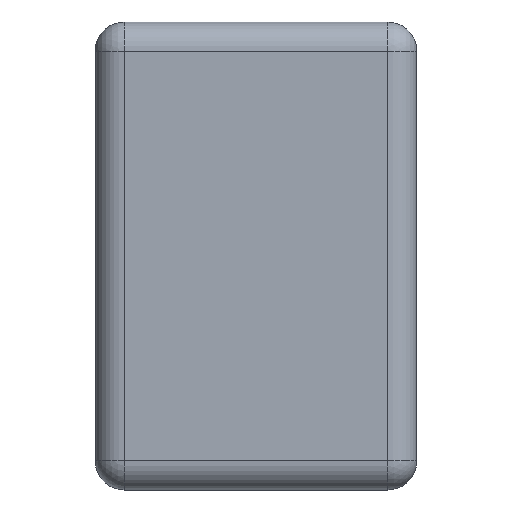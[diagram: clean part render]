
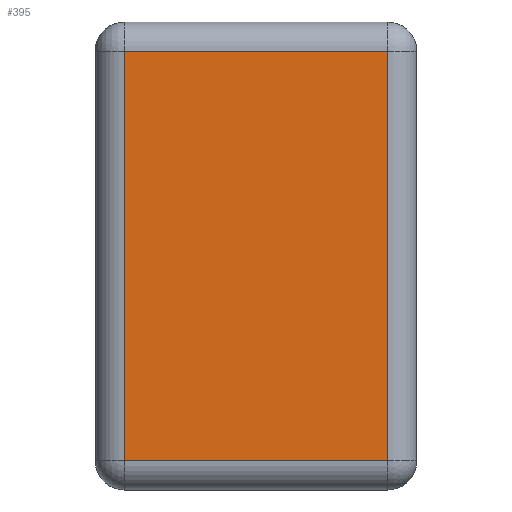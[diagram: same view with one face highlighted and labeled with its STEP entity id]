
A CAD part, left-side view. The second image highlights one B-rep face of the part: STEP entity #395.
In plain terms, the highlighted planar face has unit normal (-1, 0, 0).
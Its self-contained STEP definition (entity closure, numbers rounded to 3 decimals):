
#26 = CARTESIAN_POINT ( 'NONE',  ( -1.6, 0.1, -0.7 ) ) ;
#27 = VERTEX_POINT ( 'NONE', #26 ) ;
#242 = CARTESIAN_POINT ( 'NONE',  ( -1.6, 1., 0.701 ) ) ;
#243 = VERTEX_POINT ( 'NONE', #242 ) ;
#360 = CARTESIAN_POINT ( 'NONE',  ( -1.6, 0.1, 0.701 ) ) ;
#361 = VERTEX_POINT ( 'NONE', #360 ) ;
#362 = CARTESIAN_POINT ( 'NONE',  ( -1.6, 1.1, 0.701 ) ) ;
#363 = DIRECTION ( 'NONE',  ( 0., 1., 0. ) ) ;
#364 = VECTOR ( 'NONE', #363, 1000. ) ;
#365 = LINE ( 'NONE', #362, #364 ) ;
#366 = EDGE_CURVE ( 'NONE', #361, #243, #365, .T. ) ;
#367 = ORIENTED_EDGE ( 'NONE', *, *, #366, .T. ) ;
#368 = CARTESIAN_POINT ( 'NONE',  ( -1.6, 1., -0.7 ) ) ;
#369 = VERTEX_POINT ( 'NONE', #368 ) ;
#370 = CARTESIAN_POINT ( 'NONE',  ( -1.6, 1., -0.8 ) ) ;
#371 = DIRECTION ( 'NONE',  ( 0., 0., -1. ) ) ;
#372 = VECTOR ( 'NONE', #371, 1000. ) ;
#373 = LINE ( 'NONE', #370, #372 ) ;
#374 = EDGE_CURVE ( 'NONE', #243, #369, #373, .T. ) ;
#375 = ORIENTED_EDGE ( 'NONE', *, *, #374, .T. ) ;
#376 = CARTESIAN_POINT ( 'NONE',  ( -1.6, 0., -0.7 ) ) ;
#377 = DIRECTION ( 'NONE',  ( 0., -1., 0. ) ) ;
#378 = VECTOR ( 'NONE', #377, 1000. ) ;
#379 = LINE ( 'NONE', #376, #378 ) ;
#380 = EDGE_CURVE ( 'NONE', #369, #27, #379, .T. ) ;
#381 = ORIENTED_EDGE ( 'NONE', *, *, #380, .T. ) ;
#382 = CARTESIAN_POINT ( 'NONE',  ( -1.6, 0.1, 0.801 ) ) ;
#383 = DIRECTION ( 'NONE',  ( 0., 0., 1. ) ) ;
#384 = VECTOR ( 'NONE', #383, 1000. ) ;
#385 = LINE ( 'NONE', #382, #384 ) ;
#386 = EDGE_CURVE ( 'NONE', #27, #361, #385, .T. ) ;
#387 = ORIENTED_EDGE ( 'NONE', *, *, #386, .T. ) ;
#388 = EDGE_LOOP ( 'NONE', ( #367, #375, #381, #387 ) ) ;
#389 = FACE_OUTER_BOUND ( 'NONE', #388, .T. ) ;
#390 = CARTESIAN_POINT ( 'NONE',  ( -1.6, 0., 0. ) ) ;
#391 = DIRECTION ( 'NONE',  ( -1., 0., 0. ) ) ;
#392 = DIRECTION ( 'NONE',  ( 0., 0., 1. ) ) ;
#393 = AXIS2_PLACEMENT_3D ( 'NONE', #390, #391, #392 ) ;
#394 = PLANE ( 'NONE', #393 ) ;
#395 = ADVANCED_FACE ( 'NONE', ( #389 ), #394, .T. ) ;
